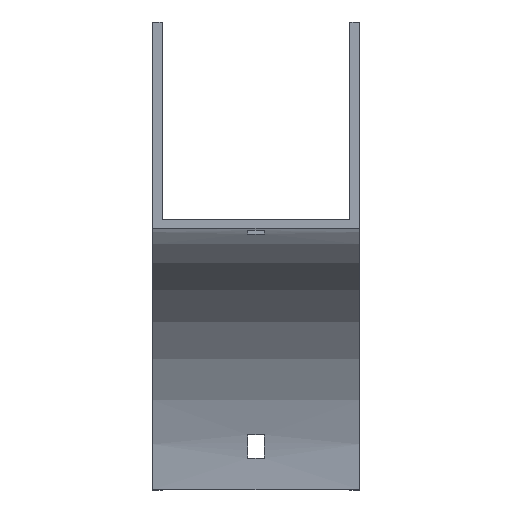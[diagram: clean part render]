
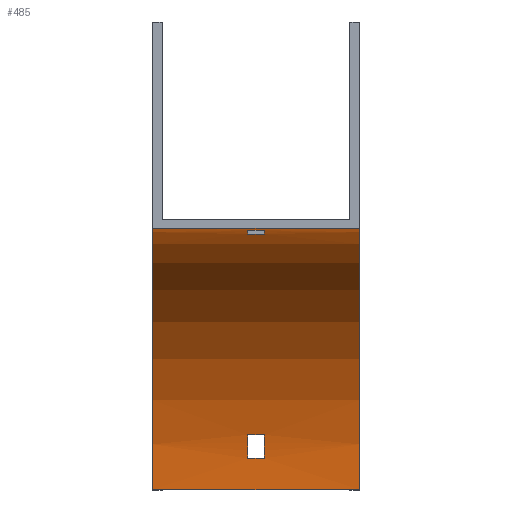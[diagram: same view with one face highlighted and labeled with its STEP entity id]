
A CAD part, top view. The second image highlights one B-rep face of the part: STEP entity #485.
In plain terms, the highlighted cylindrical face has radius 100 mm (diameter 200 mm), a partial arc.
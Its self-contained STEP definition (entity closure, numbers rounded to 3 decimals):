
#1 = CARTESIAN_POINT ( 'NONE',  ( 3.25, -100., 0. ) ) ;
#39 = LINE ( 'NONE', #786, #1025 ) ;
#40 = ORIENTED_EDGE ( 'NONE', *, *, #157, .F. ) ;
#44 = CARTESIAN_POINT ( 'NONE',  ( 3.25, -2.23, -21. ) ) ;
#60 = CARTESIAN_POINT ( 'NONE',  ( -3.25, -100., 0. ) ) ;
#66 = DIRECTION ( 'NONE',  ( 1., 0., 0. ) ) ;
#79 = CARTESIAN_POINT ( 'NONE',  ( 39.5, -0.723, -12. ) ) ;
#80 = CARTESIAN_POINT ( 'NONE',  ( 39.5, 0., 0. ) ) ;
#131 = AXIS2_PLACEMENT_3D ( 'NONE', #1657, #212, #480 ) ;
#137 = ORIENTED_EDGE ( 'NONE', *, *, #666, .T. ) ;
#139 = EDGE_CURVE ( 'NONE', #1121, #359, #622, .T. ) ;
#152 = CARTESIAN_POINT ( 'NONE',  ( 39.5, -79., -97.77 ) ) ;
#156 = DIRECTION ( 'NONE',  ( -1., 0., 0. ) ) ;
#157 = EDGE_CURVE ( 'NONE', #1468, #1019, #1011, .T. ) ;
#165 = VERTEX_POINT ( 'NONE', #1413 ) ;
#170 = DIRECTION ( 'NONE',  ( 0., 0., 1. ) ) ;
#182 = EDGE_CURVE ( 'NONE', #863, #1468, #1357, .T. ) ;
#199 = CARTESIAN_POINT ( 'NONE',  ( -3.25, -100., 0. ) ) ;
#212 = DIRECTION ( 'NONE',  ( -1., 0., 0. ) ) ;
#254 = DIRECTION ( 'NONE',  ( -1., 0., 0. ) ) ;
#262 = CARTESIAN_POINT ( 'NONE',  ( -39.5, -100., -100. ) ) ;
#297 = ORIENTED_EDGE ( 'NONE', *, *, #463, .T. ) ;
#303 = ORIENTED_EDGE ( 'NONE', *, *, #361, .T. ) ;
#319 = CARTESIAN_POINT ( 'NONE',  ( -39.5, -100., 0. ) ) ;
#359 = VERTEX_POINT ( 'NONE', #1431 ) ;
#361 = EDGE_CURVE ( 'NONE', #818, #1584, #1343, .T. ) ;
#372 = VERTEX_POINT ( 'NONE', #262 ) ;
#409 = CARTESIAN_POINT ( 'NONE',  ( 39.5, -88., -99.277 ) ) ;
#417 = CARTESIAN_POINT ( 'NONE',  ( 3.25, -0.723, -12. ) ) ;
#427 = VECTOR ( 'NONE', #156, 1000. ) ;
#429 = DIRECTION ( 'NONE',  ( -1., 0., 0. ) ) ;
#463 = EDGE_CURVE ( 'NONE', #1090, #562, #735, .T. ) ;
#480 = DIRECTION ( 'NONE',  ( 0., 0., 1. ) ) ;
#485 = ADVANCED_FACE ( 'NONE', ( #1259, #869, #614 ), #1392, .F. ) ;
#498 = EDGE_LOOP ( 'NONE', ( #137, #825, #1277, #522 ) ) ;
#522 = ORIENTED_EDGE ( 'NONE', *, *, #139, .T. ) ;
#562 = VERTEX_POINT ( 'NONE', #649 ) ;
#563 = EDGE_CURVE ( 'NONE', #1019, #1450, #749, .T. ) ;
#569 = VECTOR ( 'NONE', #1391, 1000. ) ;
#572 = AXIS2_PLACEMENT_3D ( 'NONE', #701, #964, #678 ) ;
#588 = LINE ( 'NONE', #79, #1034 ) ;
#591 = VECTOR ( 'NONE', #1220, 1000. ) ;
#593 = VECTOR ( 'NONE', #429, 1000. ) ;
#604 = DIRECTION ( 'NONE',  ( -1., 0., 0. ) ) ;
#606 = DIRECTION ( 'NONE',  ( -1., 0., 0. ) ) ;
#614 = FACE_BOUND ( 'NONE', #704, .T. ) ;
#622 = LINE ( 'NONE', #80, #569 ) ;
#624 = EDGE_CURVE ( 'NONE', #1121, #165, #1545, .T. ) ;
#649 = CARTESIAN_POINT ( 'NONE',  ( -3.25, -0.723, -12. ) ) ;
#666 = EDGE_CURVE ( 'NONE', #359, #372, #864, .T. ) ;
#678 = DIRECTION ( 'NONE',  ( 0., 0., 1. ) ) ;
#701 = CARTESIAN_POINT ( 'NONE',  ( 39.5, -100., 0. ) ) ;
#704 = EDGE_LOOP ( 'NONE', ( #1460, #1358, #1353, #40 ) ) ;
#731 = EDGE_CURVE ( 'NONE', #165, #372, #39, .T. ) ;
#735 = CIRCLE ( 'NONE', #1620, 100. ) ;
#749 = CIRCLE ( 'NONE', #1685, 100. ) ;
#764 = DIRECTION ( 'NONE',  ( 0., -1., 0. ) ) ;
#777 = DIRECTION ( 'NONE',  ( 0., 0., -1. ) ) ;
#786 = CARTESIAN_POINT ( 'NONE',  ( 39.5, -100., -100. ) ) ;
#808 = CARTESIAN_POINT ( 'NONE',  ( 39.5, -2.23, -21. ) ) ;
#818 = VERTEX_POINT ( 'NONE', #417 ) ;
#825 = ORIENTED_EDGE ( 'NONE', *, *, #731, .F. ) ;
#826 = EDGE_CURVE ( 'NONE', #1450, #863, #1578, .T. ) ;
#863 = VERTEX_POINT ( 'NONE', #1470 ) ;
#864 = CIRCLE ( 'NONE', #1186, 100. ) ;
#869 = FACE_BOUND ( 'NONE', #1115, .T. ) ;
#899 = CARTESIAN_POINT ( 'NONE',  ( 3.25, -100., 0. ) ) ;
#964 = DIRECTION ( 'NONE',  ( -1., 0., 0. ) ) ;
#981 = DIRECTION ( 'NONE',  ( 1., 0., 0. ) ) ;
#1011 = LINE ( 'NONE', #409, #591 ) ;
#1019 = VERTEX_POINT ( 'NONE', #1173 ) ;
#1025 = VECTOR ( 'NONE', #1347, 1000. ) ;
#1034 = VECTOR ( 'NONE', #66, 1000. ) ;
#1077 = CARTESIAN_POINT ( 'NONE',  ( 3.25, -79., -97.77 ) ) ;
#1090 = VERTEX_POINT ( 'NONE', #1457 ) ;
#1114 = DIRECTION ( 'NONE',  ( 0., 0., 1. ) ) ;
#1115 = EDGE_LOOP ( 'NONE', ( #1146, #297, #1574, #303 ) ) ;
#1121 = VERTEX_POINT ( 'NONE', #1611 ) ;
#1146 = ORIENTED_EDGE ( 'NONE', *, *, #1243, .T. ) ;
#1173 = CARTESIAN_POINT ( 'NONE',  ( 3.25, -88., -99.277 ) ) ;
#1186 = AXIS2_PLACEMENT_3D ( 'NONE', #319, #606, #1114 ) ;
#1202 = CARTESIAN_POINT ( 'NONE',  ( -3.25, -88., -99.277 ) ) ;
#1220 = DIRECTION ( 'NONE',  ( 1., 0., 0. ) ) ;
#1243 = EDGE_CURVE ( 'NONE', #1584, #1090, #1465, .T. ) ;
#1259 = FACE_OUTER_BOUND ( 'NONE', #498, .T. ) ;
#1277 = ORIENTED_EDGE ( 'NONE', *, *, #624, .F. ) ;
#1343 = CIRCLE ( 'NONE', #1557, 100. ) ;
#1347 = DIRECTION ( 'NONE',  ( -1., 0., 0. ) ) ;
#1353 = ORIENTED_EDGE ( 'NONE', *, *, #563, .F. ) ;
#1357 = CIRCLE ( 'NONE', #1630, 100. ) ;
#1358 = ORIENTED_EDGE ( 'NONE', *, *, #826, .F. ) ;
#1391 = DIRECTION ( 'NONE',  ( -1., 0., 0. ) ) ;
#1392 = CYLINDRICAL_SURFACE ( 'NONE', #131, 100. ) ;
#1413 = CARTESIAN_POINT ( 'NONE',  ( 39.5, -100., -100. ) ) ;
#1428 = DIRECTION ( 'NONE',  ( 1., 0., 0. ) ) ;
#1431 = CARTESIAN_POINT ( 'NONE',  ( -39.5, 0., 0. ) ) ;
#1450 = VERTEX_POINT ( 'NONE', #1077 ) ;
#1457 = CARTESIAN_POINT ( 'NONE',  ( -3.25, -2.23, -21. ) ) ;
#1460 = ORIENTED_EDGE ( 'NONE', *, *, #182, .F. ) ;
#1465 = LINE ( 'NONE', #808, #427 ) ;
#1468 = VERTEX_POINT ( 'NONE', #1202 ) ;
#1470 = CARTESIAN_POINT ( 'NONE',  ( -3.25, -79., -97.77 ) ) ;
#1501 = DIRECTION ( 'NONE',  ( 0., 1., 0. ) ) ;
#1502 = EDGE_CURVE ( 'NONE', #562, #818, #588, .T. ) ;
#1545 = CIRCLE ( 'NONE', #572, 100. ) ;
#1557 = AXIS2_PLACEMENT_3D ( 'NONE', #1, #254, #777 ) ;
#1574 = ORIENTED_EDGE ( 'NONE', *, *, #1502, .T. ) ;
#1578 = LINE ( 'NONE', #152, #593 ) ;
#1584 = VERTEX_POINT ( 'NONE', #44 ) ;
#1611 = CARTESIAN_POINT ( 'NONE',  ( 39.5, 0., 0. ) ) ;
#1620 = AXIS2_PLACEMENT_3D ( 'NONE', #60, #981, #170 ) ;
#1630 = AXIS2_PLACEMENT_3D ( 'NONE', #199, #604, #1501 ) ;
#1657 = CARTESIAN_POINT ( 'NONE',  ( 39.5, -100., 0. ) ) ;
#1685 = AXIS2_PLACEMENT_3D ( 'NONE', #899, #1428, #764 ) ;
